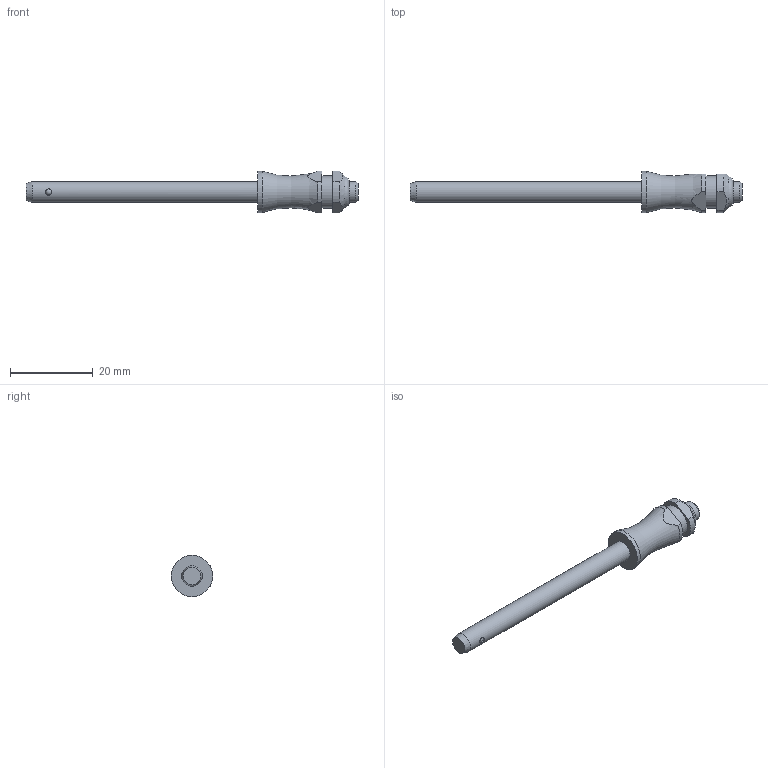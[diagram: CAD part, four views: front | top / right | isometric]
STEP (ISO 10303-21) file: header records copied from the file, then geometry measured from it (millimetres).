
FILE_DESCRIPTION( ( 'STEP AP203' ), '1' );
FILE_NAME( 'C:/Temp/Ganter_Step_05_03_2020/data/3_1/gn113_3/Stainless Steel-Ball lock pin GN 113.3-5-50 (activated).stp', '2020-03-12T08:18:12', ( 'License CC BY-ND 4.0' ), ( 'CADENAS' ), ' ', 'PARTsolutions', ' ' );
FILE_SCHEMA( ( 'CONFIG_CONTROL_DESIGN' ) );
Length unit declared in the file: millimetre
Products named in the file (1): _Stainless Steel-Ball lock pin GN 113.3-5-50 (activated)
Bounding box: 80.15 x 10 x 10 mm (x, y, z)
Volume: 2392.8 mm3; surface area: 1674.9 mm2
Topology: 1 solids, 1 shells, 31 faces, 73 edges, 46 vertices
Faces by surface type: plane 12, cylinder 12, cone 3, torus 2, sphere 2
Full cylindrical faces by diameter (mm): 1.5 x2, 5 x2, 7.9 x1, 10 x1
Entity records: 954 total; most frequent: CARTESIAN_POINT 290, DIRECTION 134, ORIENTED_EDGE 104, AXIS2_PLACEMENT_3D 58, EDGE_CURVE 52, EDGE_LOOP 48, VERTEX_POINT 40, FACE_OUTER_BOUND 39
